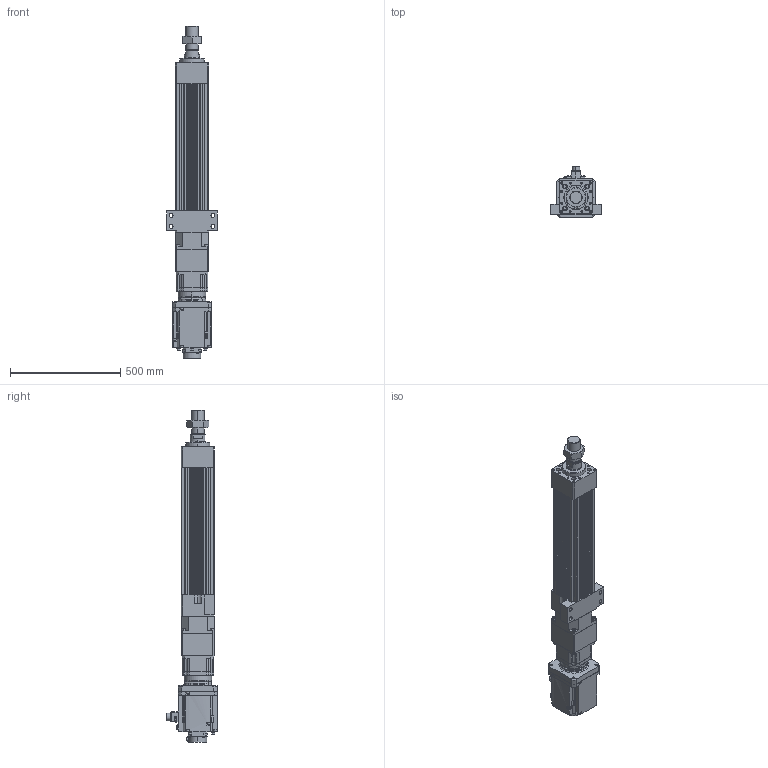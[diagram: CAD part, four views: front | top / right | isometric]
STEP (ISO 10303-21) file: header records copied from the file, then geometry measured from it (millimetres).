
FILE_DESCRIPTION (( 'STEP AP203' ), '1' );
FILE_NAME ('HES150NS(HS)-S300-W050G00-M-FFC.STEP', '2026-06-10T06:41:54', ( 'tms' ), ( '' ), 'SwSTEP 2.0', 'SolidWorks 2013', '' );
FILE_SCHEMA (( 'CONFIG_CONTROL_DESIGN' ));
Length unit declared in the file: millimetre
Products named in the file (9): HES150-S-G142; HES150NS(HS)-S300-W050G00-M-FFC; HES150-FFC-300; AB1422; AB1423; HG-SR502B; M56X2.0P; HES150-M-ROD-300; AB1421
Assembly tree (8 placements, depth 2):
  HES150NS(HS)-S300-W050G00-M-FFC
    HES150-FFC-300
    HES150-M-ROD-300
    M56X2.0P
    HES150-S-G142
    AB1421
    AB1422
    AB1423
    HG-SR502B
Bounding box: 230 x 228.85 x 1503 mm (x, y, z)
Volume: 17601096.8 mm3; surface area: 1798682.3 mm2
Topology: 5 solids, 19 shells, 1588 faces, 4128 edges, 2674 vertices
Faces by surface type: cylinder 726, plane 616, cone 164, bspline 76, torus 6
Entity records: 57568 total; most frequent: CARTESIAN_POINT 17176, DIRECTION 8476, ORIENTED_EDGE 8134, EDGE_CURVE 4089, AXIS2_PLACEMENT_3D 3199, VERTEX_POINT 2674, LINE 2078, VECTOR 2078
